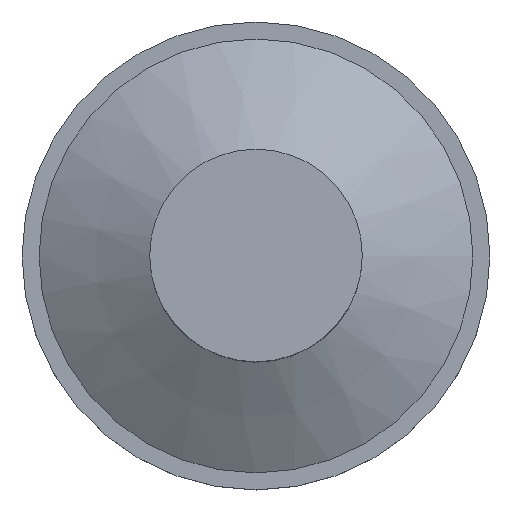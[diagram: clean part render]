
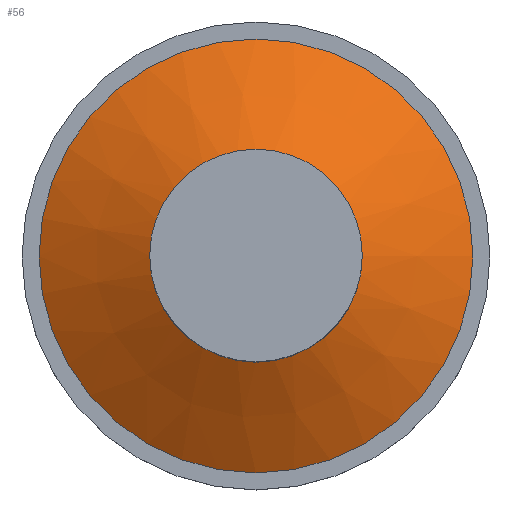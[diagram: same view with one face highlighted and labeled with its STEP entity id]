
A CAD part, top view. The second image highlights one B-rep face of the part: STEP entity #56.
In plain terms, the highlighted conical face has half-angle 60 degrees and reference radius 25.5 mm.
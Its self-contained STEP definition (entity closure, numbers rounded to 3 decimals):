
#37=CONICAL_SURFACE('',#196,25.5,60.);
#56=ADVANCED_FACE('',(#84,#85),#37,.T.);
#84=FACE_BOUND('',#108,.T.);
#85=FACE_BOUND('',#109,.T.);
#108=EDGE_LOOP('',(#132));
#109=EDGE_LOOP('',(#133));
#132=ORIENTED_EDGE('',*,*,#154,.F.);
#133=ORIENTED_EDGE('',*,*,#153,.F.);
#140=VERTEX_POINT('',#268);
#141=VERTEX_POINT('',#271);
#153=EDGE_CURVE('',#140,#140,#165,.T.);
#154=EDGE_CURVE('',#141,#141,#166,.T.);
#165=CIRCLE('',#183,25.5);
#166=CIRCLE('',#185,12.5);
#183=AXIS2_PLACEMENT_3D('',#267,#221,#222);
#185=AXIS2_PLACEMENT_3D('',#270,#225,#226);
#196=AXIS2_PLACEMENT_3D('',#287,#247,#248);
#221=DIRECTION('',(0.,0.,-1.));
#222=DIRECTION('',(1.,0.,0.));
#225=DIRECTION('',(0.,0.,1.));
#226=DIRECTION('',(1.,0.,0.));
#247=DIRECTION('',(0.,0.,-1.));
#248=DIRECTION('',(-1.,0.,0.));
#267=CARTESIAN_POINT('',(0.,0.,6.));
#268=CARTESIAN_POINT('',(25.5,0.,6.));
#270=CARTESIAN_POINT('',(0.,0.,13.506));
#271=CARTESIAN_POINT('',(12.5,0.,13.506));
#287=CARTESIAN_POINT('',(0.,0.,6.));
